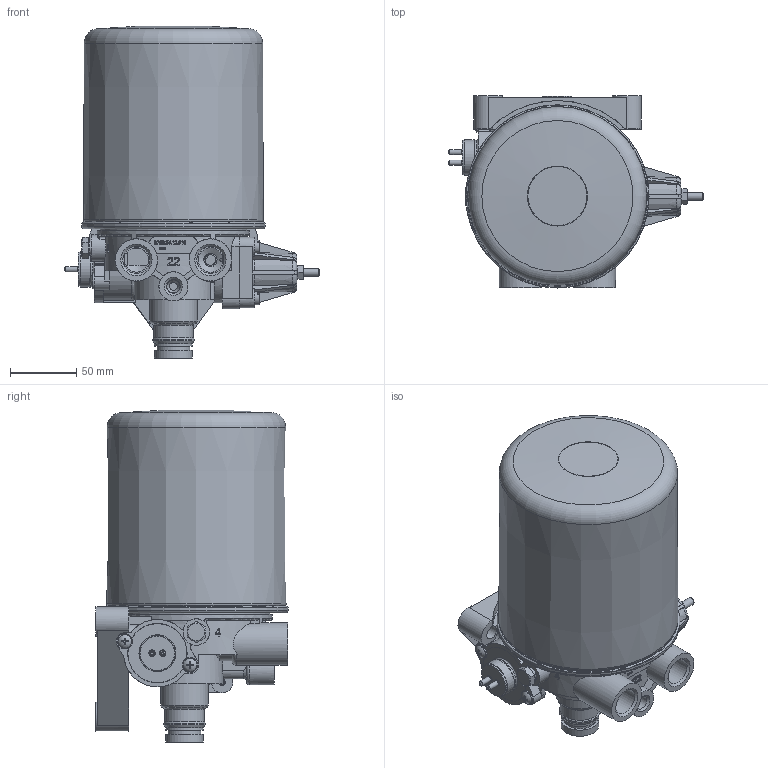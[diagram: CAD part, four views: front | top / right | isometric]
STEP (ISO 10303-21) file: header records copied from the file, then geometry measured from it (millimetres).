
FILE_DESCRIPTION(/* description */ (''),/* implementation_level */ '2;1');
FILE_NAME(/* name */ '8243.35.12.010_60-Реглятор давления с адсорбером_2.stp',/* time_stamp */ '2023-10-04T14:53:46+03:00',/* author */ (''),/* organization */ (''),/* preprocessor_version */ 'ST-DEVELOPER v16.7',/* originating_system */ 'SIEMENS PLM Software NX 1899',/* authorisation */ '');
FILE_SCHEMA (('AUTOMOTIVE_DESIGN { 1 0 10303 214 3 1 1 1 }'));
Length unit declared in the file: millimetre
Products named in the file (1): kuzm1DF85E98zvdj
Bounding box: 193.1 x 145.35 x 251.2 mm (x, y, z)
Volume: 460246.1 mm3; surface area: 358353.4 mm2
Topology: 1 solids, 15 shells, 1342 faces, 3630 edges, 2367 vertices
Faces by surface type: plane 698, cylinder 336, torus 150, cone 91, extrusion 56, bspline 9, sphere 2
Full cylindrical faces by diameter (mm): 1.7 x2, 2 x2, 2.2 x1, 2.5 x1, 3 x2, 3.2 x3, 3.5 x2, 4 x2, 4.2 x3, 5 x6, 5.5 x2, 6 x9, 6.2 x1, 6.6 x4, 7 x1, 8 x1, 9.5 x1, 10 x7, 10.2 x1, 10.5 x6, 11.5 x2, 12 x1, 14 x1, 16 x1, 16.6 x1, 18.5 x1, 20 x2, 20.5 x2, 22 x4, 22.4 x1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
Entity records: 46355 total; most frequent: CARTESIAN_POINT 14341, ORIENTED_EDGE 6560, DIRECTION 6404, EDGE_CURVE 3280, AXIS2_PLACEMENT_3D 2422, VERTEX_POINT 2267, EDGE_LOOP 1713, VECTOR 1560
